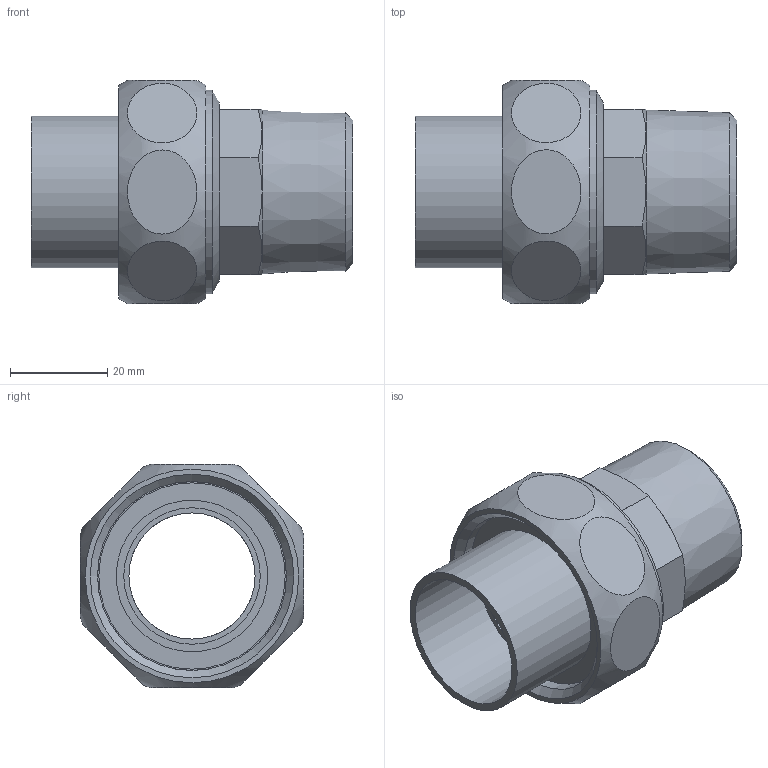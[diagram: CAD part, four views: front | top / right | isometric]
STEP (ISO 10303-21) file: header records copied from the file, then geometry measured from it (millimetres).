
FILE_DESCRIPTION(/* description */ (''),/* implementation_level */ '2;1');
FILE_NAME(/* name */ '\\lg50011\SANHA_LEGNICA\Engineering\Public\RYSUNKI\SANHA POLSKA\4343\Inventor\stp\14343281.stp',/* time_stamp */ '2021-10-06T07:23:55+02:00',/* author */ ('gomulka'),/* organization */ (''),/* preprocessor_version */ 'ST-DEVELOPER v18.1',/* originating_system */ 'Autodesk Inventor 2021',/* authorisation */ '');
FILE_SCHEMA (('AUTOMOTIVE_DESIGN { 1 0 10303 214 3 1 1 }'));
Length unit declared in the file: millimetre
Products named in the file (4): 14343281; 14386g_1-114; 14381_12-12(1); R14374_114(0)
Assembly tree (3 placements, depth 2):
  14343281
    14386g_1-114
    14381_12-12(1)
    R14374_114(0)
Bounding box: 66.26 x 46.01 x 46.01 mm (x, y, z)
Volume: 34984.7 mm3; surface area: 21385.1 mm2
Topology: 3 solids, 3 shells, 59 faces, 137 edges, 94 vertices
Faces by surface type: plane 33, cylinder 17, cone 7, torus 1, bspline 1
Full cylindrical faces by diameter (mm): 26 x2, 28.13 x1, 31.25 x1, 35.4 x1, 36 x1, 38.4 x1, 38.952 x1, 41.91 x1
Entity records: 2410 total; most frequent: CARTESIAN_POINT 866, DIRECTION 324, ORIENTED_EDGE 274, AXIS2_PLACEMENT_3D 142, EDGE_CURVE 137, VERTEX_POINT 94, CIRCLE 77, EDGE_LOOP 75
